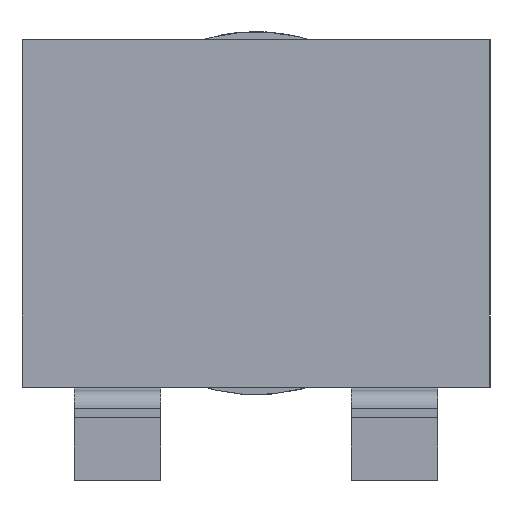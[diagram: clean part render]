
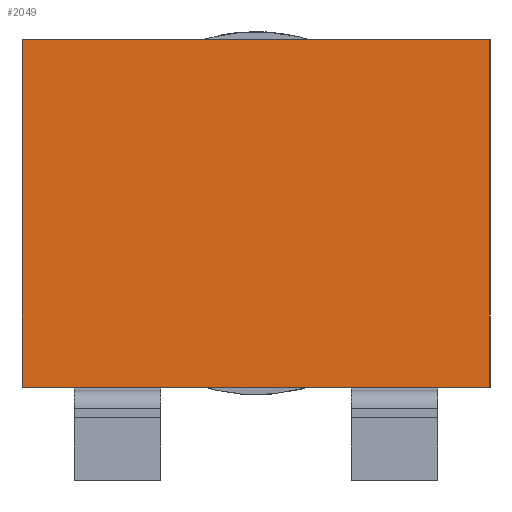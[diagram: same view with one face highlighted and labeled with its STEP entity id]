
A CAD part, front view. The second image highlights one B-rep face of the part: STEP entity #2049.
In plain terms, the highlighted planar face has unit normal (0, -1, 0).
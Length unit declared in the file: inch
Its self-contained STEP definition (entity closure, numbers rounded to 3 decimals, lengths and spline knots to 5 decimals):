
#40 = DIRECTION ( 'NONE',  ( 0., -1., 0. ) ) ;
#115 = VECTOR ( 'NONE', #2214, 39.37008 ) ;
#153 = CARTESIAN_POINT ( 'NONE',  ( -0.2563, 0., 0.19055 ) ) ;
#248 = PLANE ( 'NONE',  #1167 ) ;
#434 = DIRECTION ( 'NONE',  ( 0., 0., -1. ) ) ;
#590 = CARTESIAN_POINT ( 'NONE',  ( -0.2563, 0., 0.19055 ) ) ;
#641 = ORIENTED_EDGE ( 'NONE', *, *, #1034, .F. ) ;
#668 = VERTEX_POINT ( 'NONE', #2507 ) ;
#716 = VECTOR ( 'NONE', #1053, 39.37008 ) ;
#859 = VERTEX_POINT ( 'NONE', #1336 ) ;
#880 = EDGE_CURVE ( 'NONE', #1070, #668, #2128, .T. ) ;
#1018 = CARTESIAN_POINT ( 'NONE',  ( 0.2563, 0., -0.19055 ) ) ;
#1019 = ORIENTED_EDGE ( 'NONE', *, *, #2150, .F. ) ;
#1022 = ORIENTED_EDGE ( 'NONE', *, *, #880, .F. ) ;
#1034 = EDGE_CURVE ( 'NONE', #1580, #859, #1784, .T. ) ;
#1053 = DIRECTION ( 'NONE',  ( 0., 0., -1. ) ) ;
#1070 = VERTEX_POINT ( 'NONE', #1018 ) ;
#1159 = LINE ( 'NONE', #2237, #716 ) ;
#1167 = AXIS2_PLACEMENT_3D ( 'NONE', #2216, #40, #434 ) ;
#1331 = VECTOR ( 'NONE', #2338, 39.37008 ) ;
#1336 = CARTESIAN_POINT ( 'NONE',  ( 0.2563, 0., 0.19055 ) ) ;
#1437 = VECTOR ( 'NONE', #1485, 39.37008 ) ;
#1485 = DIRECTION ( 'NONE',  ( 0., 0., 1. ) ) ;
#1492 = CARTESIAN_POINT ( 'NONE',  ( -0.2563, 0., 0.19055 ) ) ;
#1580 = VERTEX_POINT ( 'NONE', #153 ) ;
#1770 = FACE_OUTER_BOUND ( 'NONE', #2064, .T. ) ;
#1784 = LINE ( 'NONE', #590, #115 ) ;
#1936 = CARTESIAN_POINT ( 'NONE',  ( -0.2563, 0., -0.19055 ) ) ;
#1960 = LINE ( 'NONE', #1492, #1437 ) ;
#2049 = ADVANCED_FACE ( 'NONE', ( #1770 ), #248, .T. ) ;
#2064 = EDGE_LOOP ( 'NONE', ( #1019, #641, #2576, #1022 ) ) ;
#2128 = LINE ( 'NONE', #1936, #1331 ) ;
#2150 = EDGE_CURVE ( 'NONE', #859, #1070, #1159, .T. ) ;
#2214 = DIRECTION ( 'NONE',  ( 1., 0., 0. ) ) ;
#2216 = CARTESIAN_POINT ( 'NONE',  ( 0., 0., 0. ) ) ;
#2237 = CARTESIAN_POINT ( 'NONE',  ( 0.2563, 0., 0.19055 ) ) ;
#2280 = EDGE_CURVE ( 'NONE', #668, #1580, #1960, .T. ) ;
#2338 = DIRECTION ( 'NONE',  ( -1., 0., 0. ) ) ;
#2507 = CARTESIAN_POINT ( 'NONE',  ( -0.2563, 0., -0.19055 ) ) ;
#2576 = ORIENTED_EDGE ( 'NONE', *, *, #2280, .F. ) ;
